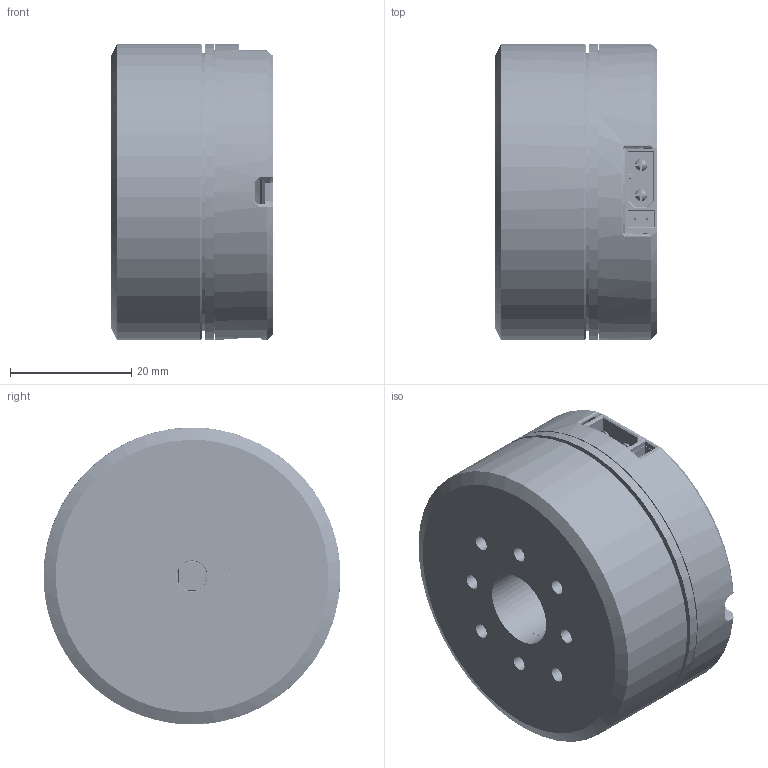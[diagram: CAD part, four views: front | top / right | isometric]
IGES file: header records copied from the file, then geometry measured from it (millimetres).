
Global section: file name: 310; native system: unknown; preprocessor: unknown; author: unknown; organization: unknown; date: 20251211.230531; units: millimetre
Bounding box: 26.67 x 48.99 x 49 mm (x, y, z)
Volume: 35437.5 mm3; surface area: 26695.2 mm2
Topology: 466 solids, 490 shells, 36239 faces, 94517 edges, 61993 vertices
Faces by surface type: bspline 36239
